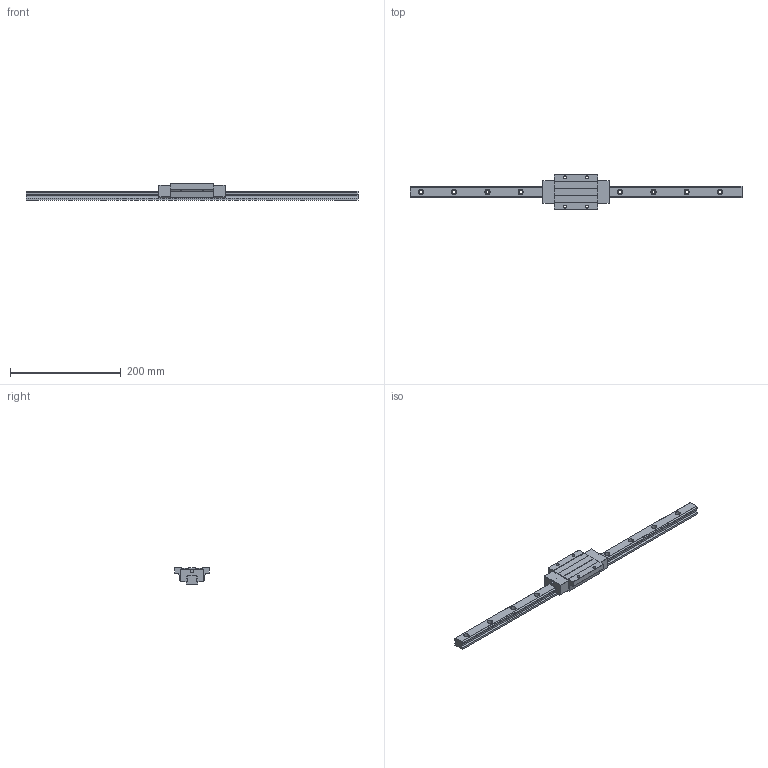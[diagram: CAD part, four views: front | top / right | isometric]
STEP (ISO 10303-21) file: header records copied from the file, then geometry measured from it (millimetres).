
FILE_DESCRIPTION (( 'STEP AP203' ), '1' );
FILE_NAME ('TRH20FE-WZ-§ï.STEP', '2023-08-30T00:44:15', ( '' ), ( '' ), 'SwSTEP 2.0', 'SolidWorks 2022', '' );
FILE_SCHEMA (( 'CONFIG_CONTROL_DESIGN' ));
Length unit declared in the file: millimetre
Products named in the file (1): TRH20FE-WZ-改
Bounding box: 600 x 63 x 30 mm (x, y, z)
Volume: 280947 mm3; surface area: 70587.8 mm2
Topology: 1 solids, 1 shells, 187 faces, 530 edges, 346 vertices
Faces by surface type: cylinder 100, plane 83, sphere 4
Entity records: 6541 total; most frequent: CARTESIAN_POINT 1420, DIRECTION 1078, ORIENTED_EDGE 1052, EDGE_CURVE 526, AXIS2_PLACEMENT_3D 382, VERTEX_POINT 346, LINE 314, VECTOR 314
